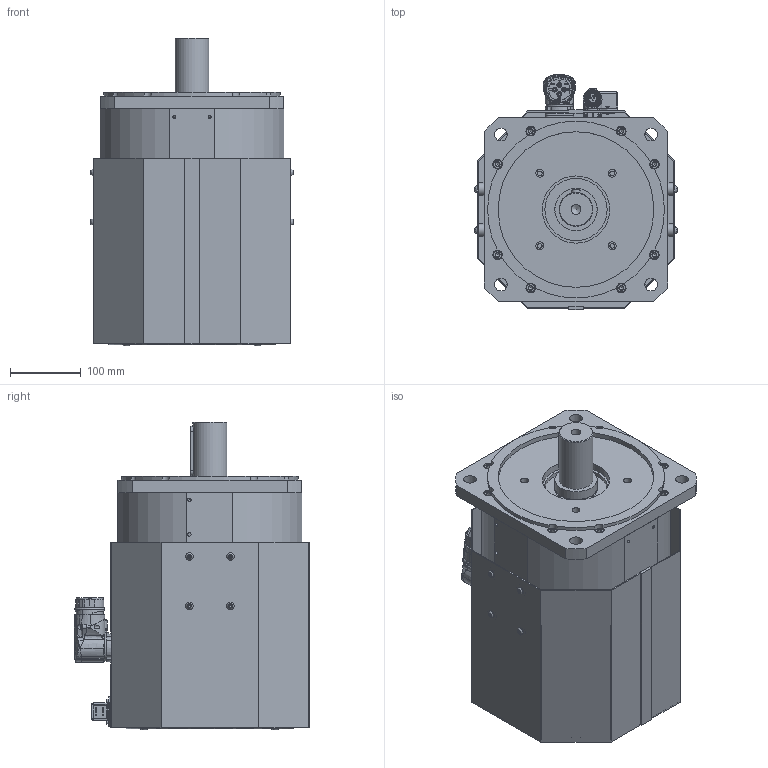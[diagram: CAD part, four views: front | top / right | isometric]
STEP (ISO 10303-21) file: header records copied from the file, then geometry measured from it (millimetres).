
FILE_DESCRIPTION(/* description */ (''),/* implementation_level */ '2;1');
FILE_NAME(/* name */ 'C:\Users\Public\Documents\Autodesk\Inventor LT 2014\Workspace\Motori Sito WEB\TG_7\NEW TG_7\DSF5_7\DSF5_71_x099.stp',/* time_stamp */ '2021-10-28T14:21:22+02:00',/* author */ ('marcor'),/* organization */ (''),/* preprocessor_version */ 'ST-DEVELOPER v15.2',/* originating_system */ 'Autodesk Inventor LT ',/* authorisation */ '');
FILE_SCHEMA (('AUTOMOTIVE_DESIGN { 1 0 10303 214 3 1 1 }'));
Products named in the file (1): DSF5_71_x099
Bounding box: 285.6 x 332.55 x 435.4 mm (x, y, z)
Volume: 15047205.5 mm3; surface area: 1457601.5 mm2
Topology: 38 solids, 67 shells, 2629 faces, 6538 edges, 4235 vertices
Faces by surface type: plane 1138, cylinder 595, cone 484, bspline 224, torus 155, sphere 33
Full cylindrical faces by diameter (mm): 1.2 x12, 2 x2, 2.013 x8, 2.2 x4, 2.224 x4, 2.4 x6, 2.459 x4, 2.5 x4, 2.88 x4, 3 x12, 3.242 x6, 3.26 x4, 3.5 x2, 3.6 x5, 4 x7, 4.134 x4, 4.5 x15, 4.8 x4, 4.917 x24, 5 x4, 5.4 x1, 5.5 x3, 5.9 x1, 6 x20, 6.5 x24, 6.647 x8, 7 x14, 7.5 x2, 8 x11, 8.376 x2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
Entity records: 85540 total; most frequent: CARTESIAN_POINT 26861, ORIENTED_EDGE 11342, DIRECTION 11187, EDGE_CURVE 5627, AXIS2_PLACEMENT_3D 4457, VERTEX_POINT 3965, EDGE_LOOP 3580, ADVANCED_FACE 2629
